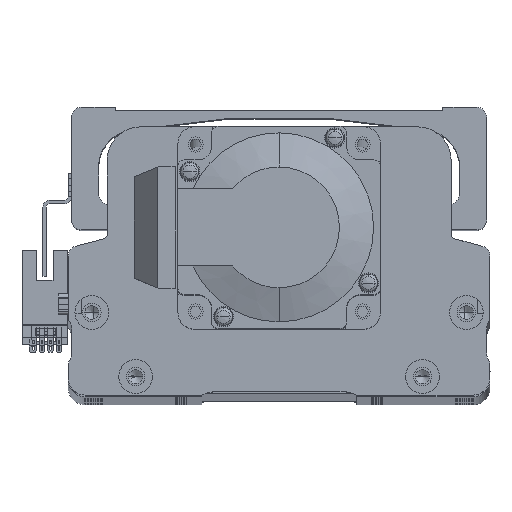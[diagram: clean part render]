
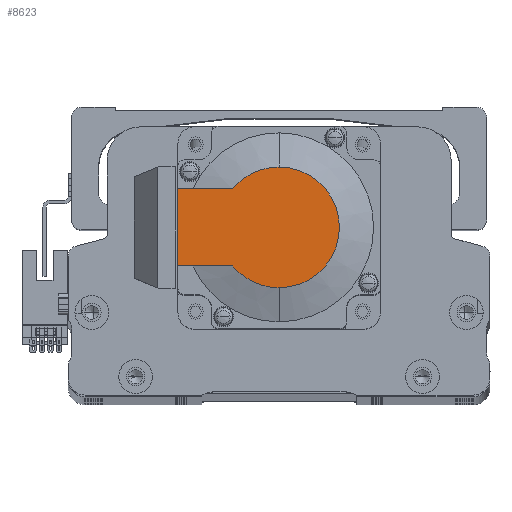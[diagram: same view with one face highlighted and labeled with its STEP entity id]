
A CAD part, top view. The second image highlights one B-rep face of the part: STEP entity #8623.
In plain terms, the highlighted planar face has unit normal (0, 0, 1) as drawn and (-1, 0, 0) by its records, which use the part's own axes.
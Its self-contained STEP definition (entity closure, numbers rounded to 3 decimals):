
#173 = CARTESIAN_POINT ( 'NONE',  ( -118.5, 30., 25. ) ) ;
#1534 = AXIS2_PLACEMENT_3D ( 'NONE', #32793, #6527, #37244 ) ;
#2007 = AXIS2_PLACEMENT_3D ( 'NONE', #21994, #52818, #26439 ) ;
#2087 = DIRECTION ( 'NONE',  ( -1., 0., 0. ) ) ;
#2571 = CARTESIAN_POINT ( 'NONE',  ( -118.5, 0., 0. ) ) ;
#4050 = CARTESIAN_POINT ( 'NONE',  ( -118.5, 0., 17.881 ) ) ;
#5638 = CARTESIAN_POINT ( 'NONE',  ( -118.5, 30., -11.45 ) ) ;
#6527 = DIRECTION ( 'NONE',  ( -1., 0., 0. ) ) ;
#7059 = DIRECTION ( 'NONE',  ( 0., 0., -1. ) ) ;
#7124 = CARTESIAN_POINT ( 'NONE',  ( -118.5, 0., 11.45 ) ) ;
#8455 = LINE ( 'NONE', #173, #42135 ) ;
#8623 = ADVANCED_FACE ( 'NONE', ( #36201 ), #37032, .T. ) ;
#8820 = ORIENTED_EDGE ( 'NONE', *, *, #28570, .T. ) ;
#9023 = VERTEX_POINT ( 'NONE', #4050 ) ;
#10793 = EDGE_CURVE ( 'NONE', #9023, #51284, #46862, .T. ) ;
#11417 = ORIENTED_EDGE ( 'NONE', *, *, #12564, .F. ) ;
#12564 = EDGE_CURVE ( 'NONE', #23482, #21488, #8455, .T. ) ;
#17090 = CIRCLE ( 'NONE', #2007, 17.881 ) ;
#18550 = VECTOR ( 'NONE', #38028, 1000. ) ;
#18742 = ORIENTED_EDGE ( 'NONE', *, *, #23506, .T. ) ;
#20349 = DIRECTION ( 'NONE',  ( 0., -1., 0. ) ) ;
#21021 = EDGE_CURVE ( 'NONE', #23482, #31687, #52255, .T. ) ;
#21488 = VERTEX_POINT ( 'NONE', #40286 ) ;
#21994 = CARTESIAN_POINT ( 'NONE',  ( -118.5, 0., 0. ) ) ;
#23482 = VERTEX_POINT ( 'NONE', #5638 ) ;
#23506 = EDGE_CURVE ( 'NONE', #56108, #9023, #39510, .T. ) ;
#24587 = CARTESIAN_POINT ( 'NONE',  ( -118.5, 0., -17.881 ) ) ;
#26439 = DIRECTION ( 'NONE',  ( 0., 0., -1. ) ) ;
#28435 = CARTESIAN_POINT ( 'NONE',  ( -118.5, 0., 0. ) ) ;
#28570 = EDGE_CURVE ( 'NONE', #31687, #56108, #17090, .T. ) ;
#30223 = LINE ( 'NONE', #7124, #18550 ) ;
#30941 = DIRECTION ( 'NONE',  ( 0., 0., 1. ) ) ;
#31163 = ORIENTED_EDGE ( 'NONE', *, *, #21021, .T. ) ;
#31687 = VERTEX_POINT ( 'NONE', #56287 ) ;
#32793 = CARTESIAN_POINT ( 'NONE',  ( -118.5, -8.941, 0. ) ) ;
#32827 = DIRECTION ( 'NONE',  ( 0., 0., -1. ) ) ;
#33329 = DIRECTION ( 'NONE',  ( -1., 0., 0. ) ) ;
#33655 = ORIENTED_EDGE ( 'NONE', *, *, #10793, .T. ) ;
#34529 = CARTESIAN_POINT ( 'NONE',  ( -118.5, 13.735, 11.45 ) ) ;
#36201 = FACE_OUTER_BOUND ( 'NONE', #41948, .T. ) ;
#37032 = PLANE ( 'NONE',  #1534 ) ;
#37244 = DIRECTION ( 'NONE',  ( 0., 0., 1. ) ) ;
#37365 = ORIENTED_EDGE ( 'NONE', *, *, #51137, .F. ) ;
#38028 = DIRECTION ( 'NONE',  ( 0., -1., 0. ) ) ;
#38546 = AXIS2_PLACEMENT_3D ( 'NONE', #28435, #2087, #32827 ) ;
#39510 = CIRCLE ( 'NONE', #38546, 17.881 ) ;
#40286 = CARTESIAN_POINT ( 'NONE',  ( -118.5, 30., 11.45 ) ) ;
#40719 = AXIS2_PLACEMENT_3D ( 'NONE', #2571, #33329, #7059 ) ;
#41931 = VECTOR ( 'NONE', #20349, 1000. ) ;
#41948 = EDGE_LOOP ( 'NONE', ( #31163, #8820, #18742, #33655, #37365, #11417 ) ) ;
#42135 = VECTOR ( 'NONE', #30941, 1000. ) ;
#46722 = CARTESIAN_POINT ( 'NONE',  ( -118.5, -8.941, -11.45 ) ) ;
#46862 = CIRCLE ( 'NONE', #40719, 17.881 ) ;
#51137 = EDGE_CURVE ( 'NONE', #21488, #51284, #30223, .T. ) ;
#51284 = VERTEX_POINT ( 'NONE', #34529 ) ;
#52255 = LINE ( 'NONE', #46722, #41931 ) ;
#52818 = DIRECTION ( 'NONE',  ( -1., 0., 0. ) ) ;
#56108 = VERTEX_POINT ( 'NONE', #24587 ) ;
#56287 = CARTESIAN_POINT ( 'NONE',  ( -118.5, 13.735, -11.45 ) ) ;
